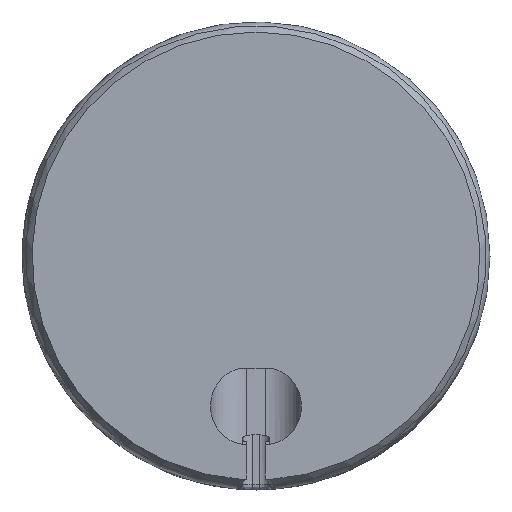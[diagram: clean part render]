
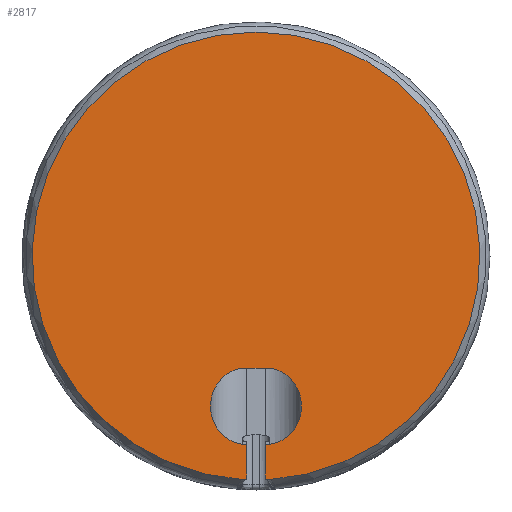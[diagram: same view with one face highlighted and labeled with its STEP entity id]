
A CAD part, front view. The second image highlights one B-rep face of the part: STEP entity #2817.
In plain terms, the highlighted planar face has unit normal (0, -1, 0).
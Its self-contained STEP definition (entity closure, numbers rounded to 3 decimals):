
#36=ELLIPSE('',#2908,5.747,5.4);
#49=ELLIPSE('',#3006,5.747,5.4);
#110=LINE('',#6645,#185);
#124=LINE('',#7684,#199);
#144=LINE('',#9924,#219);
#148=LINE('',#10083,#223);
#152=LINE('',#10427,#227);
#185=VECTOR('',#3219,10.);
#199=VECTOR('',#3339,10.);
#219=VECTOR('',#3449,10.);
#223=VECTOR('',#3467,10.);
#227=VECTOR('',#3515,10.);
#259=PLANE('',#3049);
#409=FACE_OUTER_BOUND('',#594,.T.);
#594=EDGE_LOOP('',(#2370,#2371,#2372,#2373,#2374,#2375,#2376,#2377,#2378,
#2379,#2380,#2381));
#739=CIRCLE('',#3050,33.5);
#840=B_SPLINE_CURVE_WITH_KNOTS('',3,(#6524,#6525,#6526,#6527,#6528,#6529,
#6530,#6531,#6532,#6533,#6534,#6535,#6536),.UNSPECIFIED.,.F.,.F.,(4,3,3,
3,4),(0.,0.004,0.01,0.016,0.02),
 .UNSPECIFIED.);
#848=B_SPLINE_CURVE_WITH_KNOTS('',3,(#6639,#6640,#6641,#6642),
 .UNSPECIFIED.,.F.,.F.,(4,4),(0.209,0.255),
 .UNSPECIFIED.);
#934=B_SPLINE_CURVE_WITH_KNOTS('',3,(#9802,#9803,#9804,#9805,#9806,#9807,
#9808,#9809,#9810,#9811,#9812,#9813,#9814),.UNSPECIFIED.,.F.,.F.,(4,3,3,
3,4),(0.,0.004,0.01,0.016,0.02),
 .UNSPECIFIED.);
#941=B_SPLINE_CURVE_WITH_KNOTS('',3,(#9911,#9912,#9913,#9914),
 .UNSPECIFIED.,.F.,.F.,(4,4),(0.209,0.255),
 .UNSPECIFIED.);
#1052=VERTEX_POINT('',#6002);
#1053=VERTEX_POINT('',#6004);
#1070=VERTEX_POINT('',#6522);
#1071=VERTEX_POINT('',#6523);
#1081=VERTEX_POINT('',#6634);
#1082=VERTEX_POINT('',#6644);
#1168=VERTEX_POINT('',#9311);
#1169=VERTEX_POINT('',#9313);
#1179=VERTEX_POINT('',#9800);
#1180=VERTEX_POINT('',#9801);
#1189=VERTEX_POINT('',#9910);
#1191=VERTEX_POINT('',#9922);
#1342=EDGE_CURVE('',#1052,#1053,#36,.T.);
#1366=EDGE_CURVE('',#1070,#1071,#840,.F.);
#1382=EDGE_CURVE('',#1070,#1081,#848,.T.);
#1383=EDGE_CURVE('',#1082,#1071,#110,.T.);
#1471=EDGE_CURVE('',#1052,#1082,#124,.T.);
#1541=EDGE_CURVE('',#1169,#1168,#49,.T.);
#1558=EDGE_CURVE('',#1179,#1180,#934,.F.);
#1572=EDGE_CURVE('',#1179,#1189,#941,.T.);
#1576=EDGE_CURVE('',#1191,#1180,#144,.T.);
#1588=EDGE_CURVE('',#1168,#1053,#148,.T.);
#1627=EDGE_CURVE('',#1169,#1191,#152,.T.);
#1628=EDGE_CURVE('',#1189,#1081,#739,.T.);
#2370=ORIENTED_EDGE('',*,*,#1558,.T.);
#2371=ORIENTED_EDGE('',*,*,#1576,.F.);
#2372=ORIENTED_EDGE('',*,*,#1627,.F.);
#2373=ORIENTED_EDGE('',*,*,#1541,.T.);
#2374=ORIENTED_EDGE('',*,*,#1588,.T.);
#2375=ORIENTED_EDGE('',*,*,#1342,.F.);
#2376=ORIENTED_EDGE('',*,*,#1471,.T.);
#2377=ORIENTED_EDGE('',*,*,#1383,.T.);
#2378=ORIENTED_EDGE('',*,*,#1366,.F.);
#2379=ORIENTED_EDGE('',*,*,#1382,.T.);
#2380=ORIENTED_EDGE('',*,*,#1628,.F.);
#2381=ORIENTED_EDGE('',*,*,#1572,.F.);
#2817=ADVANCED_FACE('',(#409),#259,.T.);
#2908=AXIS2_PLACEMENT_3D('',#6005,#3178,#3179);
#3006=AXIS2_PLACEMENT_3D('',#9314,#3408,#3409);
#3049=AXIS2_PLACEMENT_3D('',#10426,#3513,#3514);
#3050=AXIS2_PLACEMENT_3D('',#10428,#3516,#3517);
#3178=DIRECTION('center_axis',(0.,-1.,0.));
#3179=DIRECTION('ref_axis',(0.,0.,1.));
#3219=DIRECTION('',(0.,0.,-1.));
#3339=DIRECTION('',(-1.,0.,0.));
#3408=DIRECTION('center_axis',(0.,1.,0.));
#3409=DIRECTION('ref_axis',(0.,0.,1.));
#3449=DIRECTION('',(0.,0.,-1.));
#3467=DIRECTION('',(1.,0.,0.));
#3513=DIRECTION('center_axis',(0.,-1.,0.));
#3514=DIRECTION('ref_axis',(-1.,0.,0.));
#3515=DIRECTION('',(1.,0.,0.));
#3516=DIRECTION('center_axis',(0.,1.,0.));
#3517=DIRECTION('ref_axis',(-1.,0.,0.));
#6002=CARTESIAN_POINT('',(2.,-43.,-28.175));
#6004=CARTESIAN_POINT('',(2.,-43.,-16.753));
#6005=CARTESIAN_POINT('Origin',(1.4,-43.,-22.464));
#6522=CARTESIAN_POINT('',(1.596,-43.,-33.392));
#6523=CARTESIAN_POINT('',(1.4,-43.,-33.371));
#6524=CARTESIAN_POINT('Ctrl Pts',(1.4,-43.,-33.371));
#6525=CARTESIAN_POINT('Ctrl Pts',(1.414,-43.,-33.371));
#6526=CARTESIAN_POINT('Ctrl Pts',(1.429,-43.,-33.371));
#6527=CARTESIAN_POINT('Ctrl Pts',(1.443,-43.,-33.372));
#6528=CARTESIAN_POINT('Ctrl Pts',(1.462,-43.,-33.373));
#6529=CARTESIAN_POINT('Ctrl Pts',(1.482,-43.,-33.375));
#6530=CARTESIAN_POINT('Ctrl Pts',(1.501,-43.,-33.377));
#6531=CARTESIAN_POINT('Ctrl Pts',(1.521,-43.,-33.379));
#6532=CARTESIAN_POINT('Ctrl Pts',(1.54,-43.,-33.382));
#6533=CARTESIAN_POINT('Ctrl Pts',(1.56,-43.,-33.385));
#6534=CARTESIAN_POINT('Ctrl Pts',(1.572,-43.,-33.387));
#6535=CARTESIAN_POINT('Ctrl Pts',(1.584,-43.,-33.39));
#6536=CARTESIAN_POINT('Ctrl Pts',(1.596,-43.,-33.392));
#6634=CARTESIAN_POINT('',(2.047,-43.,-33.437));
#6639=CARTESIAN_POINT('Ctrl Pts',(1.596,-43.,-33.392));
#6640=CARTESIAN_POINT('Ctrl Pts',(1.748,-43.,-33.425));
#6641=CARTESIAN_POINT('Ctrl Pts',(1.901,-43.,-33.446));
#6642=CARTESIAN_POINT('Ctrl Pts',(2.047,-43.,-33.437));
#6644=CARTESIAN_POINT('',(1.4,-43.,-28.175));
#6645=CARTESIAN_POINT('',(1.4,-43.,-28.175));
#7684=CARTESIAN_POINT('',(2.,-43.,-28.175));
#9311=CARTESIAN_POINT('',(-2.,-43.,-16.753));
#9313=CARTESIAN_POINT('',(-2.,-43.,-28.175));
#9314=CARTESIAN_POINT('Origin',(-1.4,-43.,-22.464));
#9800=CARTESIAN_POINT('',(-1.596,-43.,-33.392));
#9801=CARTESIAN_POINT('',(-1.4,-43.,-33.371));
#9802=CARTESIAN_POINT('Ctrl Pts',(-1.4,-43.,-33.371));
#9803=CARTESIAN_POINT('Ctrl Pts',(-1.414,-43.,-33.371));
#9804=CARTESIAN_POINT('Ctrl Pts',(-1.429,-43.,-33.371));
#9805=CARTESIAN_POINT('Ctrl Pts',(-1.443,-43.,-33.372));
#9806=CARTESIAN_POINT('Ctrl Pts',(-1.462,-43.,-33.373));
#9807=CARTESIAN_POINT('Ctrl Pts',(-1.482,-43.,-33.375));
#9808=CARTESIAN_POINT('Ctrl Pts',(-1.501,-43.,-33.377));
#9809=CARTESIAN_POINT('Ctrl Pts',(-1.521,-43.,-33.379));
#9810=CARTESIAN_POINT('Ctrl Pts',(-1.54,-43.,-33.382));
#9811=CARTESIAN_POINT('Ctrl Pts',(-1.56,-43.,-33.385));
#9812=CARTESIAN_POINT('Ctrl Pts',(-1.572,-43.,-33.387));
#9813=CARTESIAN_POINT('Ctrl Pts',(-1.584,-43.,-33.39));
#9814=CARTESIAN_POINT('Ctrl Pts',(-1.596,-43.,-33.392));
#9910=CARTESIAN_POINT('',(-2.047,-43.,-33.437));
#9911=CARTESIAN_POINT('Ctrl Pts',(-1.596,-43.,-33.392));
#9912=CARTESIAN_POINT('Ctrl Pts',(-1.748,-43.,-33.425));
#9913=CARTESIAN_POINT('Ctrl Pts',(-1.901,-43.,-33.446));
#9914=CARTESIAN_POINT('Ctrl Pts',(-2.047,-43.,-33.437));
#9922=CARTESIAN_POINT('',(-1.4,-43.,-28.175));
#9924=CARTESIAN_POINT('',(-1.4,-43.,-28.175));
#10083=CARTESIAN_POINT('',(-2.,-43.,-16.753));
#10426=CARTESIAN_POINT('Origin',(-17.5,-43.,0.));
#10427=CARTESIAN_POINT('',(-2.,-43.,-28.175));
#10428=CARTESIAN_POINT('Origin',(0.,-43.,0.));
